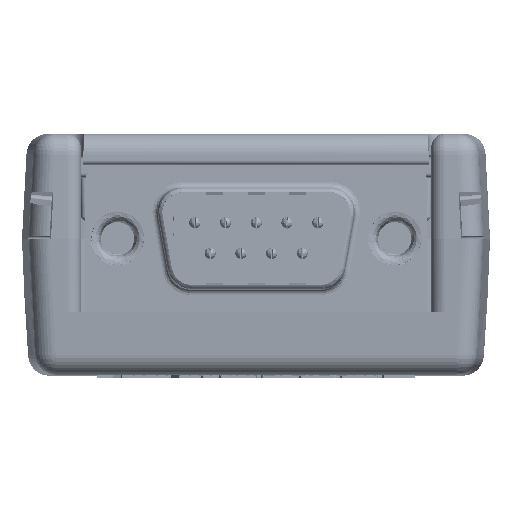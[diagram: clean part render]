
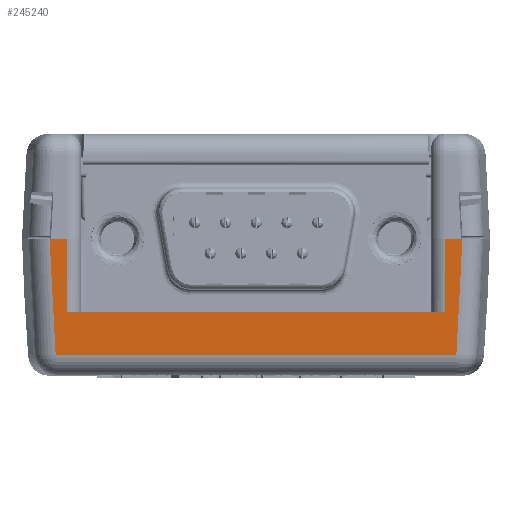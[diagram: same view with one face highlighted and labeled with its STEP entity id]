
A CAD part, top view. The second image highlights one B-rep face of the part: STEP entity #245240.
In plain terms, the highlighted planar face has unit normal (0, -0.052, 0.999).
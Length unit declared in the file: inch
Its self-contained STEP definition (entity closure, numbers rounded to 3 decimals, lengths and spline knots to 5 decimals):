
#1568 = DIRECTION ( 'NONE',  ( 0.052, 0.997, 0.052 ) ) ;
#9343 = EDGE_CURVE ( 'NONE', #218016, #74931, #13321, .T. ) ;
#11248 = VERTEX_POINT ( 'NONE', #239465 ) ;
#13321 = LINE ( 'NONE', #333568, #225374 ) ;
#14006 = DIRECTION ( 'NONE',  ( 0., 0.999, 0.052 ) ) ;
#16173 = CARTESIAN_POINT ( 'NONE',  ( -0.09654, 0.07107, -0.02164 ) ) ;
#21762 = LINE ( 'NONE', #113216, #148464 ) ;
#31397 = CARTESIAN_POINT ( 'NONE',  ( -0.05012, 0.484, 0. ) ) ;
#32640 = VECTOR ( 'NONE', #325087, 39.37008 ) ;
#32988 = ORIENTED_EDGE ( 'NONE', *, *, #245568, .F. ) ;
#37039 = LINE ( 'NONE', #135991, #118526 ) ;
#44961 = PLANE ( 'NONE',  #290489 ) ;
#45184 = LINE ( 'NONE', #221238, #32640 ) ;
#54133 = VECTOR ( 'NONE', #1568, 39.37008 ) ;
#64506 = DIRECTION ( 'NONE',  ( 1., 0., 0. ) ) ;
#71225 = DIRECTION ( 'NONE',  ( 0., -0.052, 0.999 ) ) ;
#74340 = VERTEX_POINT ( 'NONE', #282632 ) ;
#74931 = VERTEX_POINT ( 'NONE', #16173 ) ;
#83418 = LINE ( 'NONE', #247884, #95775 ) ;
#87650 = VERTEX_POINT ( 'NONE', #276793 ) ;
#95775 = VECTOR ( 'NONE', #64506, 39.37008 ) ;
#103512 = EDGE_CURVE ( 'NONE', #74340, #87650, #83418, .T. ) ;
#106187 = CARTESIAN_POINT ( 'NONE',  ( -1.51846, 0.07107, -0.02164 ) ) ;
#113216 = CARTESIAN_POINT ( 'NONE',  ( -1.53603, 0.40634, -0.00407 ) ) ;
#113959 = ORIENTED_EDGE ( 'NONE', *, *, #283486, .T. ) ;
#118526 = VECTOR ( 'NONE', #315138, 39.37008 ) ;
#121679 = VERTEX_POINT ( 'NONE', #234425 ) ;
#135991 = CARTESIAN_POINT ( 'NONE',  ( -0.136, 0.484, 0. ) ) ;
#136571 = LINE ( 'NONE', #31397, #328385 ) ;
#140635 = EDGE_CURVE ( 'NONE', #258996, #218016, #21762, .T. ) ;
#143290 = LINE ( 'NONE', #314126, #54133 ) ;
#148464 = VECTOR ( 'NONE', #321922, 39.37008 ) ;
#152599 = EDGE_CURVE ( 'NONE', #258996, #11248, #136571, .T. ) ;
#177295 = DIRECTION ( 'NONE',  ( 1., 0., 0. ) ) ;
#197094 = VERTEX_POINT ( 'NONE', #253648 ) ;
#204618 = EDGE_CURVE ( 'NONE', #74931, #121679, #143290, .T. ) ;
#206987 = ORIENTED_EDGE ( 'NONE', *, *, #140635, .T. ) ;
#210011 = ORIENTED_EDGE ( 'NONE', *, *, #103512, .F. ) ;
#212425 = LINE ( 'NONE', #301447, #302257 ) ;
#218016 = VERTEX_POINT ( 'NONE', #106187 ) ;
#219398 = DIRECTION ( 'NONE',  ( 1., 0., 0. ) ) ;
#221238 = CARTESIAN_POINT ( 'NONE',  ( -0.05012, 0.484, 0. ) ) ;
#225374 = VECTOR ( 'NONE', #177295, 39.37008 ) ;
#234124 = ORIENTED_EDGE ( 'NONE', *, *, #204618, .T. ) ;
#234425 = CARTESIAN_POINT ( 'NONE',  ( -0.0749, 0.484, 0. ) ) ;
#239465 = CARTESIAN_POINT ( 'NONE',  ( -1.479, 0.484, 0. ) ) ;
#245240 = ADVANCED_FACE ( 'NONE', ( #335074 ), #44961, .T. ) ;
#245568 = EDGE_CURVE ( 'NONE', #197094, #121679, #45184, .T. ) ;
#247884 = CARTESIAN_POINT ( 'NONE',  ( -1.429, 0.224, -0.01363 ) ) ;
#253648 = CARTESIAN_POINT ( 'NONE',  ( -0.136, 0.484, 0. ) ) ;
#255995 = EDGE_CURVE ( 'NONE', #74340, #11248, #212425, .T. ) ;
#258996 = VERTEX_POINT ( 'NONE', #262343 ) ;
#262343 = CARTESIAN_POINT ( 'NONE',  ( -1.5401, 0.484, 0. ) ) ;
#276793 = CARTESIAN_POINT ( 'NONE',  ( -0.136, 0.224, -0.01363 ) ) ;
#282632 = CARTESIAN_POINT ( 'NONE',  ( -1.479, 0.224, -0.01363 ) ) ;
#283486 = EDGE_CURVE ( 'NONE', #197094, #87650, #37039, .T. ) ;
#283768 = ORIENTED_EDGE ( 'NONE', *, *, #255995, .T. ) ;
#284240 = CARTESIAN_POINT ( 'NONE',  ( -0.05012, 0.484, 0. ) ) ;
#287024 = ORIENTED_EDGE ( 'NONE', *, *, #152599, .F. ) ;
#290489 = AXIS2_PLACEMENT_3D ( 'NONE', #284240, #71225, #308305 ) ;
#301447 = CARTESIAN_POINT ( 'NONE',  ( -1.479, 0.484, 0. ) ) ;
#302257 = VECTOR ( 'NONE', #14006, 39.37008 ) ;
#308305 = DIRECTION ( 'NONE',  ( 0., -0.999, -0.052 ) ) ;
#314126 = CARTESIAN_POINT ( 'NONE',  ( -0.07483, 0.48529, 0.00007 ) ) ;
#315138 = DIRECTION ( 'NONE',  ( 0., -0.999, -0.052 ) ) ;
#319950 = ORIENTED_EDGE ( 'NONE', *, *, #9343, .T. ) ;
#320610 = EDGE_LOOP ( 'NONE', ( #32988, #113959, #210011, #283768, #287024, #206987, #319950, #234124 ) ) ;
#321922 = DIRECTION ( 'NONE',  ( 0.052, -0.997, -0.052 ) ) ;
#325087 = DIRECTION ( 'NONE',  ( 1., 0., 0. ) ) ;
#328385 = VECTOR ( 'NONE', #219398, 39.37008 ) ;
#333568 = CARTESIAN_POINT ( 'NONE',  ( -0.02537, 0.07107, -0.02164 ) ) ;
#335074 = FACE_OUTER_BOUND ( 'NONE', #320610, .T. ) ;
